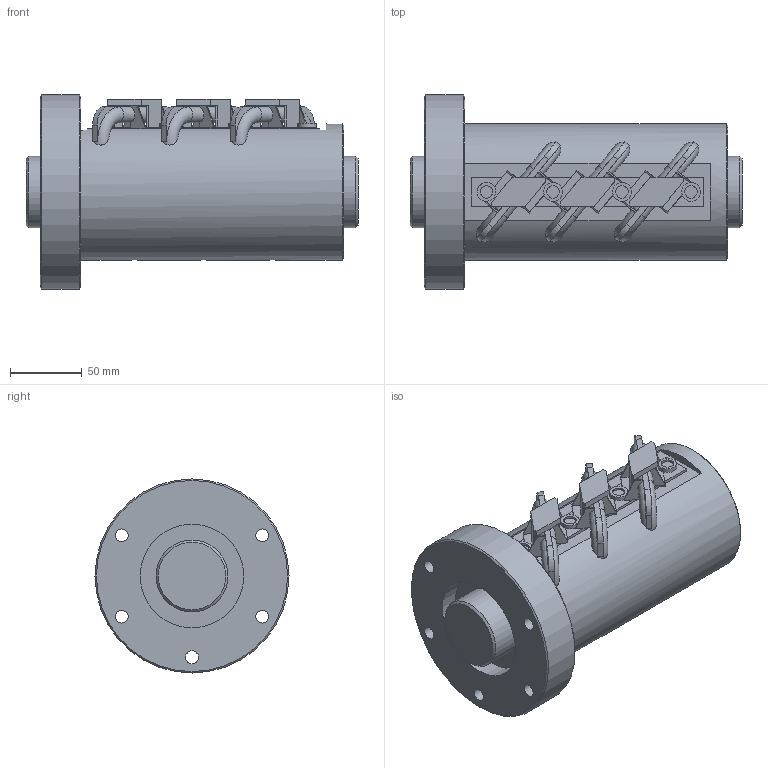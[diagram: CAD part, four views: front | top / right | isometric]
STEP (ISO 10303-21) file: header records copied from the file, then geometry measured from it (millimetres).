
FILE_DESCRIPTION(/* description */ ('STEP AP203'),/* implementation_level */ '2;1');
FILE_NAME(/* name */ 'HBN5016-7.5RRG2+231LC0(0G200)_rev',/* time_stamp */ '2024-07-04T08:17:57+02:00',/* author */ ('License CC BY-ND 4.0'),/* organization */ ('CADENAS'),/* preprocessor_version */ 'ST-DEVELOPER v19.3',/* originating_system */ 'PARTsolutions',/* authorisation */ ' ');
FILE_SCHEMA (('CONFIG_CONTROL_DESIGN'));
Length unit declared in the file: millimetre
Products named in the file (3): HBN5016-7.5RRG2+231LC0(0G200)_rev; HBN5016-7.5 RRG1+231L C0(01000) Shaft; HBN5016-7.5 RRG1+221L C0(0100) Nut
Assembly tree (2 placements, depth 2):
  HBN5016-7.5RRG2+231LC0(0G200)_rev
    HBN5016-7.5 RRG1+231L C0(01000) Shaft
    HBN5016-7.5 RRG1+221L C0(0100) Nut
Bounding box: 231 x 135 x 135 mm (x, y, z)
Volume: 1693562.1 mm3; surface area: 192945.5 mm2
Topology: 2 solids, 2 shells, 256 faces, 786 edges, 498 vertices
Faces by surface type: plane 202, cylinder 37, cone 11, torus 6
Full cylindrical faces by diameter (mm): 4.333 x3, 8.566 x3, 8.667 x4, 9 x5, 50 x2, 72 x2, 95 x1, 135 x1
Entity records: 8801 total; most frequent: CARTESIAN_POINT 1752, ORIENTED_EDGE 1488, DIRECTION 1369, EDGE_CURVE 744, LINE 583, VECTOR 583, VERTEX_POINT 491, AXIS2_PLACEMENT_3D 393
